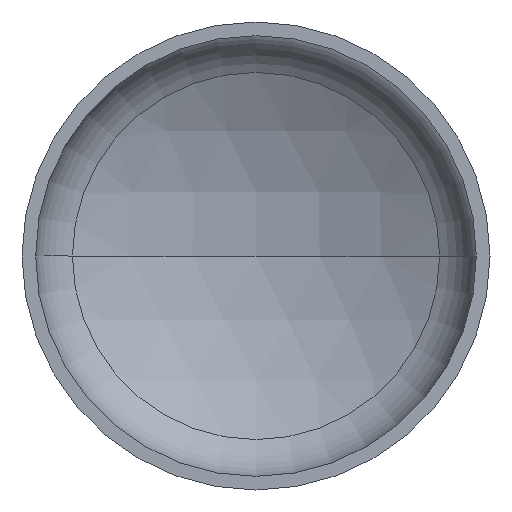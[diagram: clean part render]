
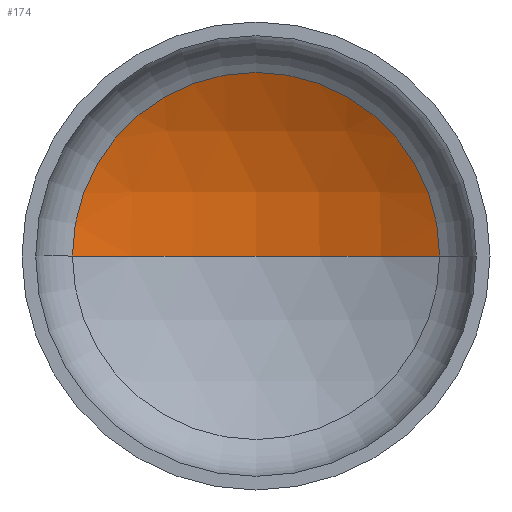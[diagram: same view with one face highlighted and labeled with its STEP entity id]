
A CAD part, front view. The second image highlights one B-rep face of the part: STEP entity #174.
In plain terms, the highlighted spherical face has radius 960 mm.
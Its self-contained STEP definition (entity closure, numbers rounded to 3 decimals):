
#6 = ORIENTED_EDGE ( 'NONE', *, *, #344, .T. ) ;
#8 = VERTEX_POINT ( 'NONE', #161 ) ;
#13 = AXIS2_PLACEMENT_3D ( 'NONE', #215, #217, #210 ) ;
#28 = AXIS2_PLACEMENT_3D ( 'NONE', #335, #263, #247 ) ;
#30 = AXIS2_PLACEMENT_3D ( 'NONE', #212, #213, #230 ) ;
#38 = FACE_OUTER_BOUND ( 'NONE', #79, .T. ) ;
#56 = AXIS2_PLACEMENT_3D ( 'NONE', #286, #206, #308 ) ;
#79 = EDGE_LOOP ( 'NONE', ( #122, #6, #125 ) ) ;
#118 = VERTEX_POINT ( 'NONE', #232 ) ;
#122 = ORIENTED_EDGE ( 'NONE', *, *, #346, .F. ) ;
#125 = ORIENTED_EDGE ( 'NONE', *, *, #360, .T. ) ;
#128 = VERTEX_POINT ( 'NONE', #291 ) ;
#129 = SPHERICAL_SURFACE ( 'NONE', #56, 960. ) ;
#161 = CARTESIAN_POINT ( 'NONE',  ( -470.71, 271.235, 0. ) ) ;
#174 = ADVANCED_FACE ( 'NONE', ( #38 ), #129, .F. ) ;
#184 = CIRCLE ( 'NONE', #28, 960. ) ;
#206 = DIRECTION ( 'NONE',  ( 0., 0., -1. ) ) ;
#210 = DIRECTION ( 'NONE',  ( 1., 0., 0. ) ) ;
#212 = CARTESIAN_POINT ( 'NONE',  ( 0., -565.444, 0. ) ) ;
#213 = DIRECTION ( 'NONE',  ( 0., 0., 1. ) ) ;
#215 = CARTESIAN_POINT ( 'NONE',  ( 0., 271.235, 0. ) ) ;
#217 = DIRECTION ( 'NONE',  ( 0., -1., 0. ) ) ;
#230 = DIRECTION ( 'NONE',  ( 1., 0., 0. ) ) ;
#232 = CARTESIAN_POINT ( 'NONE',  ( 0., 394.556, 0. ) ) ;
#247 = DIRECTION ( 'NONE',  ( -1., 0., 0. ) ) ;
#263 = DIRECTION ( 'NONE',  ( 0., 0., -1. ) ) ;
#286 = CARTESIAN_POINT ( 'NONE',  ( 0., -565.444, 0. ) ) ;
#291 = CARTESIAN_POINT ( 'NONE',  ( 470.71, 271.235, 0. ) ) ;
#308 = DIRECTION ( 'NONE',  ( -1., 0., 0. ) ) ;
#335 = CARTESIAN_POINT ( 'NONE',  ( 0., -565.444, 0. ) ) ;
#344 = EDGE_CURVE ( 'NONE', #118, #128, #184, .T. ) ;
#346 = EDGE_CURVE ( 'NONE', #118, #8, #370, .T. ) ;
#360 = EDGE_CURVE ( 'NONE', #128, #8, #364, .T. ) ;
#364 = CIRCLE ( 'NONE', #13, 470.71 ) ;
#370 = CIRCLE ( 'NONE', #30, 960. ) ;
